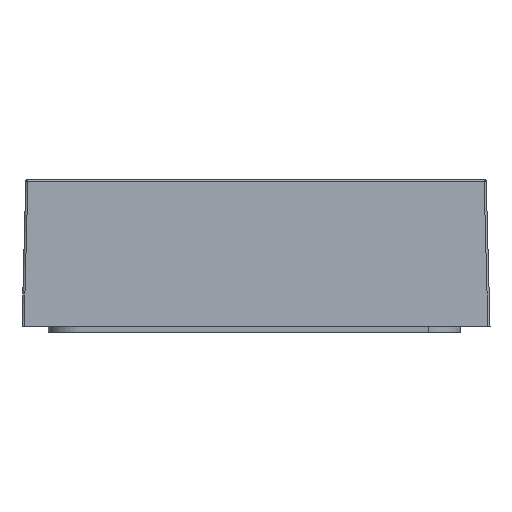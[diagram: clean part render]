
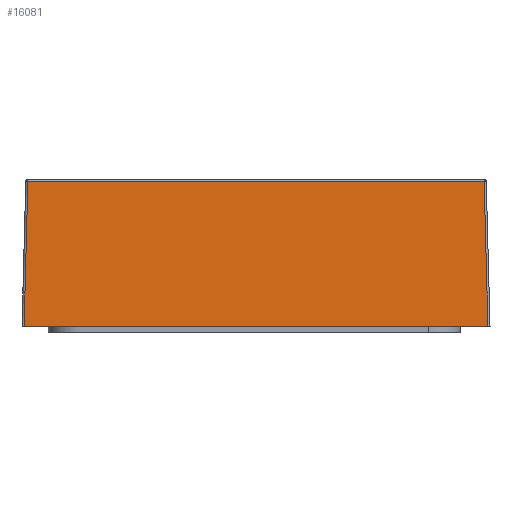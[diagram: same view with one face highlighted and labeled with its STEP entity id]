
A CAD part, left-side view. The second image highlights one B-rep face of the part: STEP entity #16081.
In plain terms, the highlighted planar face has unit normal (-1, 0, 0.026).
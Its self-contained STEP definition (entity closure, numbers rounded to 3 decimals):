
#220 = CARTESIAN_POINT ( 'NONE',  ( -55.013, -54.513, -0.487 ) ) ;
#1013 = CARTESIAN_POINT ( 'NONE',  ( -55.013, 55., -0.487 ) ) ;
#1472 = LINE ( 'NONE', #5941, #20388 ) ;
#3101 = VECTOR ( 'NONE', #24725, 1000. ) ;
#3875 = CARTESIAN_POINT ( 'NONE',  ( -54.925, -54.425, 2.863 ) ) ;
#3936 = VERTEX_POINT ( 'NONE', #18400 ) ;
#5673 = DIRECTION ( 'NONE',  ( -0.026, 0.026, -0.999 ) ) ;
#5941 = CARTESIAN_POINT ( 'NONE',  ( -55., 54.501, -0.013 ) ) ;
#6158 = LINE ( 'NONE', #21723, #11211 ) ;
#6776 = ORIENTED_EDGE ( 'NONE', *, *, #23342, .T. ) ;
#8539 = DIRECTION ( 'NONE',  ( 0., -1., 0. ) ) ;
#8655 = EDGE_CURVE ( 'NONE', #3936, #21909, #6158, .T. ) ;
#9838 = LINE ( 'NONE', #1013, #3101 ) ;
#10382 = DIRECTION ( 'NONE',  ( -1., 0., 0.026 ) ) ;
#11211 = VECTOR ( 'NONE', #8539, 1000. ) ;
#11884 = EDGE_CURVE ( 'NONE', #12012, #3936, #1472, .T. ) ;
#12012 = VERTEX_POINT ( 'NONE', #15734 ) ;
#12627 = CARTESIAN_POINT ( 'NONE',  ( -55., 55., 0. ) ) ;
#14060 = EDGE_LOOP ( 'NONE', ( #18297, #19845, #6776, #16196 ) ) ;
#15734 = CARTESIAN_POINT ( 'NONE',  ( -55.013, 54.513, -0.487 ) ) ;
#16081 = ADVANCED_FACE ( 'NONE', ( #19061 ), #17235, .T. ) ;
#16196 = ORIENTED_EDGE ( 'NONE', *, *, #11884, .T. ) ;
#17235 = PLANE ( 'NONE',  #27576 ) ;
#18297 = ORIENTED_EDGE ( 'NONE', *, *, #8655, .T. ) ;
#18400 = CARTESIAN_POINT ( 'NONE',  ( -55.917, 55.417, -35. ) ) ;
#19061 = FACE_OUTER_BOUND ( 'NONE', #14060, .T. ) ;
#19151 = LINE ( 'NONE', #3875, #25469 ) ;
#19845 = ORIENTED_EDGE ( 'NONE', *, *, #22786, .T. ) ;
#20388 = VECTOR ( 'NONE', #5673, 1000. ) ;
#20986 = DIRECTION ( 'NONE',  ( 0.026, 0.026, 0.999 ) ) ;
#21723 = CARTESIAN_POINT ( 'NONE',  ( -55.917, 0., -35. ) ) ;
#21909 = VERTEX_POINT ( 'NONE', #27691 ) ;
#22703 = VERTEX_POINT ( 'NONE', #220 ) ;
#22786 = EDGE_CURVE ( 'NONE', #21909, #22703, #19151, .T. ) ;
#23342 = EDGE_CURVE ( 'NONE', #22703, #12012, #9838, .T. ) ;
#24725 = DIRECTION ( 'NONE',  ( 0., 1., 0. ) ) ;
#25469 = VECTOR ( 'NONE', #20986, 1000. ) ;
#25808 = DIRECTION ( 'NONE',  ( 0.026, 0., 1. ) ) ;
#27576 = AXIS2_PLACEMENT_3D ( 'NONE', #12627, #10382, #25808 ) ;
#27691 = CARTESIAN_POINT ( 'NONE',  ( -55.917, -55.417, -35. ) ) ;
